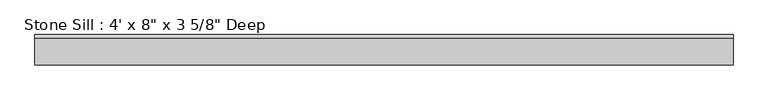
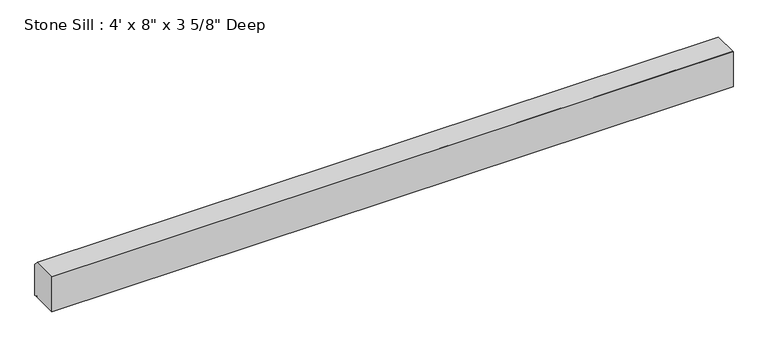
"""IFC4 building model written with IfcOpenShell, lengths in millimetres: proxy geometry."""

from ifc_helpers import new_model, si_unit, frame, origin, place, context, project, spatial, polyline, outline, extrude, source, transform, mapped, element, save


def proxy_4080196a(model_context):
    return source(origin(), model_context, "Body", "SweptSolid", [
        extrude(outline(polyline([(56.1519131, 2055.8013021), (56.1519131, 2191.2679687), (150.6269131, 2191.2679687), (164.1019131, 2175.3929687), (164.1019131, 2055.8013021), (156.9769131, 2055.8013021), (156.9769131, 2061.4047094), (150.6269131, 2061.4047094), (150.6269131, 2055.8013021), (56.1519131, 2055.8013021)])), frame((-630.4, 0.0, 0.0), z_axis=(1.0, 0.0, 0.0), x_axis=(0.0, 1.0, 0.0)), (0.0, 0.0, 1.0), 2489.2),
        extrude(outline(polyline([(1858.8, 58.5519131), (-630.4, 58.5519131), (-630.4, 74.4269131), (1858.8, 74.4269131), (1858.8, 58.5519131)])), frame((0.0, 0.0, 2055.8013021), z_axis=(0.0, 0.0, 1.0), x_axis=(1.0, 0.0, 0.0)), (0.0, 0.0, 1.0), 135.4666667),
    ])


if __name__ == "__main__":
    model = new_model("IFC4")
    model_context = context("Model", 3, world=origin())
    ifc_project = project(units=[si_unit("LENGTHUNIT", "METRE", prefix="MILLI")], contexts=[model_context])
    site = spatial("IfcSite", under=ifc_project)
    building = spatial("IfcBuilding", under=site)
    placement = place(None, origin())
    proxy_shape = proxy_4080196a(model_context)
    element("IfcBuildingElementProxy", 1, Name="Stone Sill : 4' x 8\" x 3 5/8\" Deep", ObjectType="Stone Sill : 4' x 8\" x 3 5/8\" Deep", at=placement, inside=building, context=model_context, shape_type="MappedRepresentation", body=[
        mapped(proxy_shape, transform((0.0, 0.0, 0.0), x_axis=(1.0, 0.0, 0.0), y_axis=(0.0, 1.0, 0.0), z_axis=(0.0, 0.0, 1.0))),
    ])
    save(model, "model.ifc")
